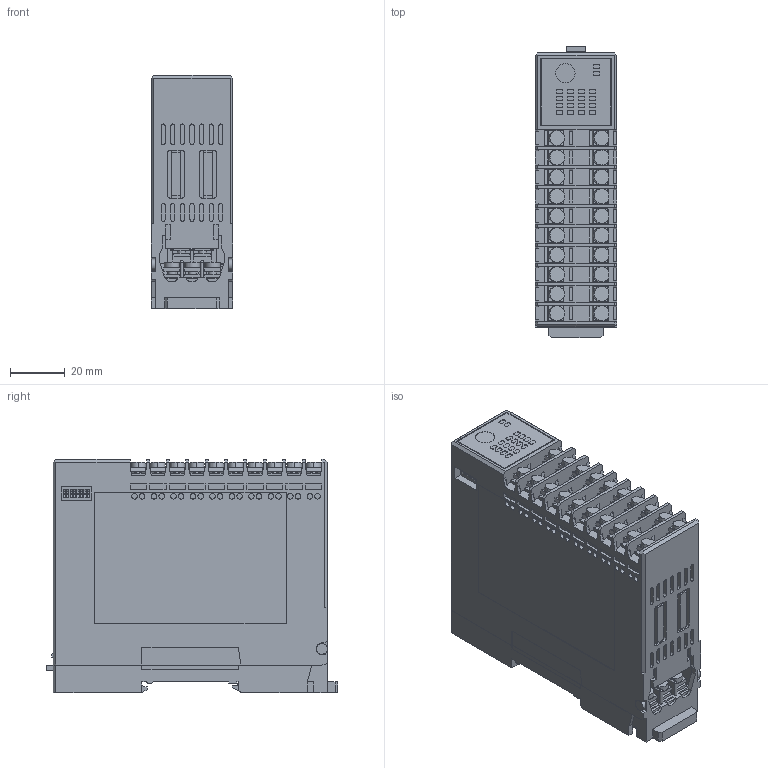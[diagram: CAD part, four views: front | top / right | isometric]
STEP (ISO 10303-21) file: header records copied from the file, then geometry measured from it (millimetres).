
FILE_DESCRIPTION (( 'STEP AP203' ), '1' );
FILE_NAME ('QDM1-DxxxxPTorCT_251017.STEP', '2025-10-17T05:42:41', ( '' ), ( '' ), 'SwSTEP 2.0', 'SolidWorks 2022', '' );
FILE_SCHEMA (( 'CONFIG_CONTROL_DESIGN' ));
Length unit declared in the file: millimetre
Products named in the file (1): QDM1-DxxxxPTorCT_251017
Bounding box: 29.8 x 106.3 x 85.1 mm (x, y, z)
Volume: 225800.2 mm3; surface area: 46925.8 mm2
Topology: 21 solids, 21 shells, 1957 faces, 4981 edges, 3296 vertices
Faces by surface type: plane 1510, cylinder 443, torus 4
Entity records: 58538 total; most frequent: CARTESIAN_POINT 10331, ORIENTED_EDGE 9962, DIRECTION 9699, EDGE_CURVE 4981, LINE 4115, VECTOR 4115, VERTEX_POINT 3296, AXIS2_PLACEMENT_3D 2792
